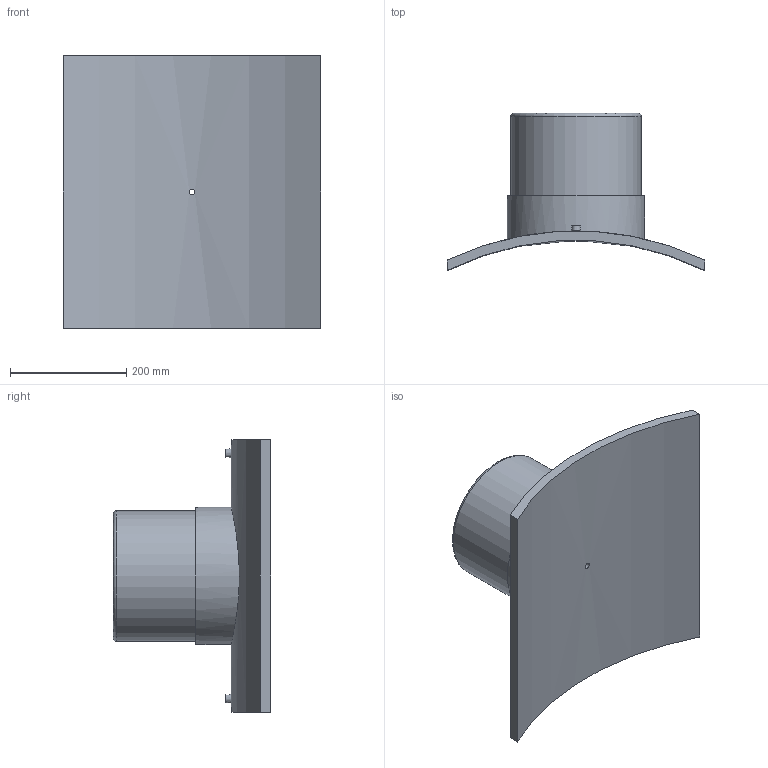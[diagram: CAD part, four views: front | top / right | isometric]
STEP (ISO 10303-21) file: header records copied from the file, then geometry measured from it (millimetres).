
FILE_DESCRIPTION(/* description */ ('PLASSON BRANCH SADDLE 1000x225'),/* implementation_level */ '2;1');
FILE_NAME(/* name */ 'C:\Dropbox\KIMPROJECTS-Inventor 2019\99-16-3568-Processing\ElectroFusion Fittings\495803\stp\4958031000225T.stp',/* time_stamp */ '2024-04-04T11:47:50+02:00',/* author */ ('KIM'),/* organization */ (''),/* preprocessor_version */ 'ST-DEVELOPER v17.2',/* originating_system */ 'Autodesk Inventor 2019',/* authorisation */ '');
FILE_SCHEMA (('AUTOMOTIVE_DESIGN { 1 0 10303 214 3 1 1 }'));
Length unit declared in the file: millimetre
Products named in the file (1): 4958031000225T
Bounding box: 443 x 270.74 x 470 mm (x, y, z)
Volume: 6706596.1 mm3; surface area: 737581.2 mm2
Topology: 1 solids, 1 shells, 29 faces, 60 edges, 43 vertices
Faces by surface type: plane 13, cylinder 12, torus 2, cone 2
Full cylindrical faces by diameter (mm): 4 x2, 9.6 x1, 10 x2, 16 x1, 180 x1, 225 x1, 236.25 x1
Entity records: 1086 total; most frequent: CARTESIAN_POINT 400, DIRECTION 139, ORIENTED_EDGE 120, EDGE_CURVE 60, AXIS2_PLACEMENT_3D 60, VERTEX_POINT 43, EDGE_LOOP 41, CIRCLE 30
